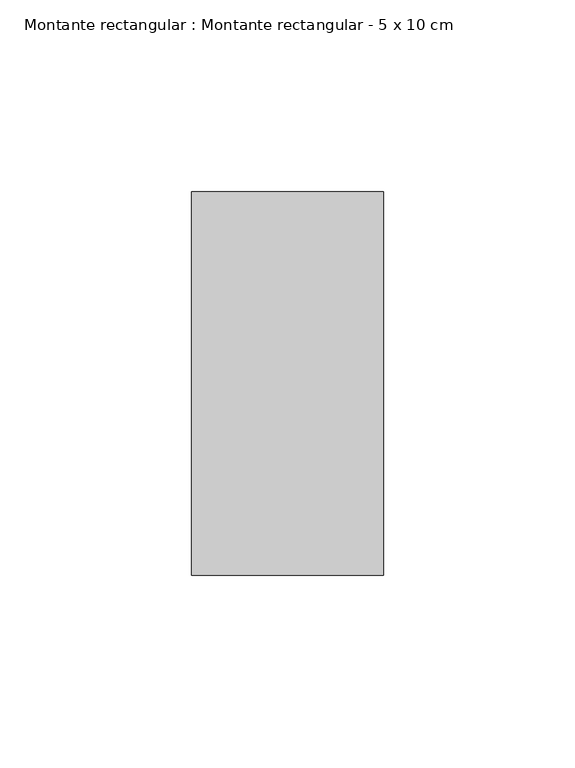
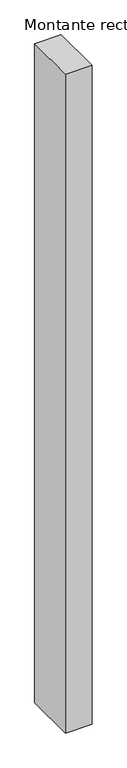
"""IFC4 building model written with IfcOpenShell, lengths in millimetres: member geometry, Montante rectangular : Montante rectangular - 5 x 10 cm."""

from ifc_helpers import new_model, si_unit, frame, origin, place, context, project, spatial, polyline, outline, extrude, source, transform, mapped, element, save


def montante_rectangular_montante_rectangular_5_x_10_cm_9420f1c0(model_context):
    return source(origin(), model_context, "Body", "SweptSolid", [
        extrude(outline(polyline([(-50.0, 50.0), (0.0, 50.0), (0.0, -50.0), (-50.0, -50.0), (-50.0, 50.0)])), frame((0.0, 0.0, -1310.0), z_axis=(0.0, 0.0, 1.0), x_axis=(1.0, 0.0, 0.0)), (0.0, 0.0, 1.0), 1310.0),
    ])


if __name__ == "__main__":
    model = new_model("IFC4")
    model_context = context("Model", 3, world=origin())
    ifc_project = project(units=[si_unit("LENGTHUNIT", "METRE", prefix="MILLI")], contexts=[model_context])
    site = spatial("IfcSite", under=ifc_project)
    building = spatial("IfcBuilding", under=site)
    placement = place(None, origin())
    montante_rectangular_montante_rectangular_5_x_10_cm_shape = montante_rectangular_montante_rectangular_5_x_10_cm_9420f1c0(model_context)
    element("IfcMember", 1, ObjectType="Montante rectangular : Montante rectangular - 5 x 10 cm", at=placement, inside=building, context=model_context, shape_type="MappedRepresentation", body=[
        mapped(montante_rectangular_montante_rectangular_5_x_10_cm_shape, transform((0.0, 0.0, 0.0), x_axis=(1.0, 0.0, 0.0), y_axis=(0.0, 1.0, 0.0), z_axis=(0.0, 0.0, 1.0))),
    ])
    save(model, "model.ifc")
